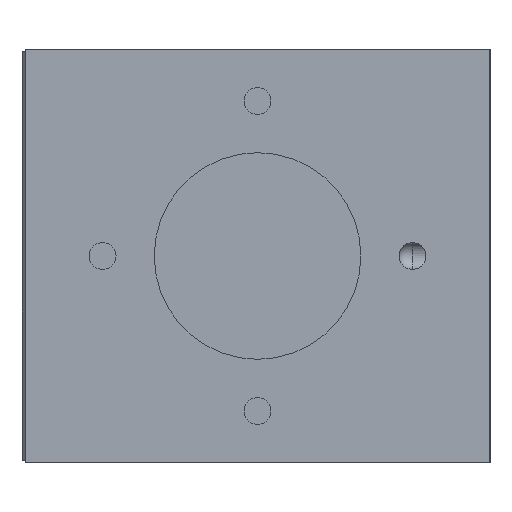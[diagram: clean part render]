
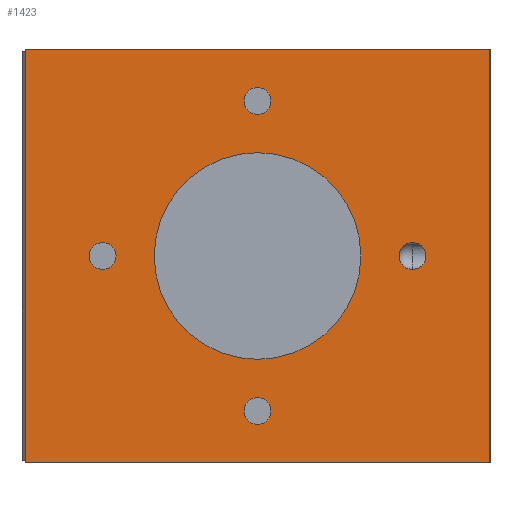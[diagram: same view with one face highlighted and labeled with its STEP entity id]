
A CAD part, left-side view. The second image highlights one B-rep face of the part: STEP entity #1423.
In plain terms, the highlighted planar face has unit normal (-1, 0, 0).
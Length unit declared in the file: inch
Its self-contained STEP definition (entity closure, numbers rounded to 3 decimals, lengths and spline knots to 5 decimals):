
#140 = FACE_BOUND ( 'NONE', #11827, .T. ) ;
#175 = EDGE_LOOP ( 'NONE', ( #10695, #2940 ) ) ;
#176 = EDGE_CURVE ( 'NONE', #7015, #8692, #12206, .T. ) ;
#306 = DIRECTION ( 'NONE',  ( -1., 0., 0. ) ) ;
#404 = EDGE_CURVE ( 'NONE', #7015, #8004, #2251, .T. ) ;
#467 = FACE_BOUND ( 'NONE', #583, .T. ) ;
#548 = AXIS2_PLACEMENT_3D ( 'NONE', #10420, #4392, #11439 ) ;
#583 = EDGE_LOOP ( 'NONE', ( #4765, #12351 ) ) ;
#620 = EDGE_CURVE ( 'NONE', #8004, #3454, #6835, .T. ) ;
#683 = CARTESIAN_POINT ( 'NONE',  ( -0.08115, 2.16875, 1.31967 ) ) ;
#699 = AXIS2_PLACEMENT_3D ( 'NONE', #11901, #5873, #12898 ) ;
#721 = EDGE_LOOP ( 'NONE', ( #5525, #6501 ) ) ;
#778 = DIRECTION ( 'NONE',  ( 0., 0., 1. ) ) ;
#788 = CARTESIAN_POINT ( 'NONE',  ( -0.08115, 2.16875, 0.13467 ) ) ;
#920 = DIRECTION ( 'NONE',  ( 0., 0., 1. ) ) ;
#1004 = CARTESIAN_POINT ( 'NONE',  ( -0.08115, 2.16875, 1.63467 ) ) ;
#1041 = CARTESIAN_POINT ( 'NONE',  ( -0.08115, 1.04375, 1.81967 ) ) ;
#1063 = CIRCLE ( 'NONE', #6927, 0.065 ) ;
#1064 = AXIS2_PLACEMENT_3D ( 'NONE', #4486, #11705, #12579 ) ;
#1423 = ADVANCED_FACE ( 'NONE', ( #2842, #467, #5865, #10912, #140, #10607 ), #12133, .F. ) ;
#1721 = AXIS2_PLACEMENT_3D ( 'NONE', #10713, #4671, #11718 ) ;
#1797 = AXIS2_PLACEMENT_3D ( 'NONE', #11505, #5482, #12508 ) ;
#1804 = CARTESIAN_POINT ( 'NONE',  ( -0.08115, 1.41875, 0.81967 ) ) ;
#1927 = DIRECTION ( 'NONE',  ( 1., 0., 0. ) ) ;
#1934 = DIRECTION ( 'NONE',  ( -1., 0., 0. ) ) ;
#2130 = CARTESIAN_POINT ( 'NONE',  ( -0.08115, 2.16875, 0.31967 ) ) ;
#2251 = LINE ( 'NONE', #9163, #10646 ) ;
#2612 = VERTEX_POINT ( 'NONE', #10884 ) ;
#2842 = FACE_BOUND ( 'NONE', #175, .T. ) ;
#2940 = ORIENTED_EDGE ( 'NONE', *, *, #6201, .F. ) ;
#3069 = EDGE_LOOP ( 'NONE', ( #9078, #7027, #12903, #9747 ) ) ;
#3143 = CIRCLE ( 'NONE', #699, 0.5 ) ;
#3161 = CARTESIAN_POINT ( 'NONE',  ( -0.08115, 2.91875, 0.75467 ) ) ;
#3367 = VERTEX_POINT ( 'NONE', #3161 ) ;
#3396 = DIRECTION ( 'NONE',  ( 0., -1., 0. ) ) ;
#3454 = VERTEX_POINT ( 'NONE', #9825 ) ;
#3883 = EDGE_CURVE ( 'NONE', #12038, #9624, #4099, .T. ) ;
#4082 = CARTESIAN_POINT ( 'NONE',  ( -0.08115, 1.04375, 1.81967 ) ) ;
#4099 = CIRCLE ( 'NONE', #1064, 0.5 ) ;
#4198 = EDGE_CURVE ( 'NONE', #7376, #5034, #1063, .T. ) ;
#4309 = LINE ( 'NONE', #1041, #12025 ) ;
#4392 = DIRECTION ( 'NONE',  ( -1., 0., 0. ) ) ;
#4404 = ORIENTED_EDGE ( 'NONE', *, *, #10784, .F. ) ;
#4486 = CARTESIAN_POINT ( 'NONE',  ( -0.08115, 2.16875, 0.81967 ) ) ;
#4671 = DIRECTION ( 'NONE',  ( -1., 0., 0. ) ) ;
#4726 = CIRCLE ( 'NONE', #1721, 0.065 ) ;
#4765 = ORIENTED_EDGE ( 'NONE', *, *, #9771, .F. ) ;
#4990 = EDGE_CURVE ( 'NONE', #7139, #10518, #13055, .T. ) ;
#5034 = VERTEX_POINT ( 'NONE', #9282 ) ;
#5046 = DIRECTION ( 'NONE',  ( 0., 0., -1. ) ) ;
#5054 = AXIS2_PLACEMENT_3D ( 'NONE', #13018, #7006, #920 ) ;
#5092 = DIRECTION ( 'NONE',  ( 0., -1., 0. ) ) ;
#5164 = ORIENTED_EDGE ( 'NONE', *, *, #9422, .F. ) ;
#5175 = DIRECTION ( 'NONE',  ( 0., 0., -1. ) ) ;
#5482 = DIRECTION ( 'NONE',  ( -1., 0., 0. ) ) ;
#5525 = ORIENTED_EDGE ( 'NONE', *, *, #7663, .F. ) ;
#5687 = VERTEX_POINT ( 'NONE', #8152 ) ;
#5865 = FACE_BOUND ( 'NONE', #721, .T. ) ;
#5873 = DIRECTION ( 'NONE',  ( -1., 0., 0. ) ) ;
#6016 = CIRCLE ( 'NONE', #1797, 0.065 ) ;
#6201 = EDGE_CURVE ( 'NONE', #3367, #2612, #13015, .T. ) ;
#6259 = VERTEX_POINT ( 'NONE', #1004 ) ;
#6367 = DIRECTION ( 'NONE',  ( 0., 0., -1. ) ) ;
#6393 = CARTESIAN_POINT ( 'NONE',  ( -0.08115, 1.41875, 0.81967 ) ) ;
#6501 = ORIENTED_EDGE ( 'NONE', *, *, #4990, .F. ) ;
#6577 = AXIS2_PLACEMENT_3D ( 'NONE', #6393, #306, #7384 ) ;
#6616 = AXIS2_PLACEMENT_3D ( 'NONE', #11119, #1927, #6367 ) ;
#6835 = LINE ( 'NONE', #7537, #11566 ) ;
#6851 = VECTOR ( 'NONE', #5092, 39.37008 ) ;
#6927 = AXIS2_PLACEMENT_3D ( 'NONE', #6988, #12001, #8041 ) ;
#6988 = CARTESIAN_POINT ( 'NONE',  ( -0.08115, 2.16875, 0.06967 ) ) ;
#7006 = DIRECTION ( 'NONE',  ( -1., 0., 0. ) ) ;
#7015 = VERTEX_POINT ( 'NONE', #8338 ) ;
#7027 = ORIENTED_EDGE ( 'NONE', *, *, #620, .T. ) ;
#7139 = VERTEX_POINT ( 'NONE', #7540 ) ;
#7376 = VERTEX_POINT ( 'NONE', #788 ) ;
#7384 = DIRECTION ( 'NONE',  ( 0., 0., 1. ) ) ;
#7485 = ORIENTED_EDGE ( 'NONE', *, *, #4198, .F. ) ;
#7517 = AXIS2_PLACEMENT_3D ( 'NONE', #1804, #7883, #778 ) ;
#7537 = CARTESIAN_POINT ( 'NONE',  ( -0.08115, 1.04375, -0.18033 ) ) ;
#7540 = CARTESIAN_POINT ( 'NONE',  ( -0.08115, 1.41875, 0.75467 ) ) ;
#7663 = EDGE_CURVE ( 'NONE', #10518, #7139, #11860, .T. ) ;
#7883 = DIRECTION ( 'NONE',  ( -1., 0., 0. ) ) ;
#7981 = EDGE_LOOP ( 'NONE', ( #7485, #4404 ) ) ;
#7994 = CARTESIAN_POINT ( 'NONE',  ( -0.08115, 2.91875, 0.81967 ) ) ;
#8004 = VERTEX_POINT ( 'NONE', #12153 ) ;
#8041 = DIRECTION ( 'NONE',  ( 0., 0., 1. ) ) ;
#8152 = CARTESIAN_POINT ( 'NONE',  ( -0.08115, 2.16875, 1.50467 ) ) ;
#8338 = CARTESIAN_POINT ( 'NONE',  ( -0.08115, 3.29375, 1.81967 ) ) ;
#8692 = VERTEX_POINT ( 'NONE', #10618 ) ;
#9031 = DIRECTION ( 'NONE',  ( 0., 0., 1. ) ) ;
#9078 = ORIENTED_EDGE ( 'NONE', *, *, #404, .T. ) ;
#9163 = CARTESIAN_POINT ( 'NONE',  ( -0.08115, 3.29375, 1.81967 ) ) ;
#9282 = CARTESIAN_POINT ( 'NONE',  ( -0.08115, 2.16875, 0.00467 ) ) ;
#9422 = EDGE_CURVE ( 'NONE', #9624, #12038, #3143, .T. ) ;
#9453 = AXIS2_PLACEMENT_3D ( 'NONE', #7994, #1934, #9031 ) ;
#9461 = CIRCLE ( 'NONE', #548, 0.065 ) ;
#9624 = VERTEX_POINT ( 'NONE', #2130 ) ;
#9747 = ORIENTED_EDGE ( 'NONE', *, *, #176, .F. ) ;
#9750 = CIRCLE ( 'NONE', #5054, 0.065 ) ;
#9771 = EDGE_CURVE ( 'NONE', #6259, #5687, #6016, .T. ) ;
#9825 = CARTESIAN_POINT ( 'NONE',  ( -0.08115, 1.04375, -0.18033 ) ) ;
#10341 = EDGE_CURVE ( 'NONE', #2612, #3367, #4726, .T. ) ;
#10420 = CARTESIAN_POINT ( 'NONE',  ( -0.08115, 2.16875, 0.06967 ) ) ;
#10518 = VERTEX_POINT ( 'NONE', #10962 ) ;
#10607 = FACE_OUTER_BOUND ( 'NONE', #3069, .T. ) ;
#10618 = CARTESIAN_POINT ( 'NONE',  ( -0.08115, 1.04375, 1.81967 ) ) ;
#10646 = VECTOR ( 'NONE', #5046, 39.37008 ) ;
#10695 = ORIENTED_EDGE ( 'NONE', *, *, #10341, .F. ) ;
#10713 = CARTESIAN_POINT ( 'NONE',  ( -0.08115, 2.91875, 0.81967 ) ) ;
#10784 = EDGE_CURVE ( 'NONE', #5034, #7376, #9461, .T. ) ;
#10884 = CARTESIAN_POINT ( 'NONE',  ( -0.08115, 2.91875, 0.88467 ) ) ;
#10912 = FACE_BOUND ( 'NONE', #7981, .T. ) ;
#10962 = CARTESIAN_POINT ( 'NONE',  ( -0.08115, 1.41875, 0.88467 ) ) ;
#11113 = EDGE_CURVE ( 'NONE', #5687, #6259, #9750, .T. ) ;
#11119 = CARTESIAN_POINT ( 'NONE',  ( -0.08115, 1.04375, 1.81967 ) ) ;
#11439 = DIRECTION ( 'NONE',  ( 0., 0., 1. ) ) ;
#11505 = CARTESIAN_POINT ( 'NONE',  ( -0.08115, 2.16875, 1.56967 ) ) ;
#11566 = VECTOR ( 'NONE', #3396, 39.37008 ) ;
#11705 = DIRECTION ( 'NONE',  ( -1., 0., 0. ) ) ;
#11718 = DIRECTION ( 'NONE',  ( 0., 0., 1. ) ) ;
#11827 = EDGE_LOOP ( 'NONE', ( #12026, #5164 ) ) ;
#11860 = CIRCLE ( 'NONE', #6577, 0.065 ) ;
#11901 = CARTESIAN_POINT ( 'NONE',  ( -0.08115, 2.16875, 0.81967 ) ) ;
#12001 = DIRECTION ( 'NONE',  ( -1., 0., 0. ) ) ;
#12025 = VECTOR ( 'NONE', #5175, 39.37008 ) ;
#12026 = ORIENTED_EDGE ( 'NONE', *, *, #3883, .F. ) ;
#12038 = VERTEX_POINT ( 'NONE', #683 ) ;
#12133 = PLANE ( 'NONE',  #6616 ) ;
#12153 = CARTESIAN_POINT ( 'NONE',  ( -0.08115, 3.29375, -0.18033 ) ) ;
#12206 = LINE ( 'NONE', #4082, #6851 ) ;
#12351 = ORIENTED_EDGE ( 'NONE', *, *, #11113, .F. ) ;
#12508 = DIRECTION ( 'NONE',  ( 0., 0., 1. ) ) ;
#12579 = DIRECTION ( 'NONE',  ( 0., 0., 1. ) ) ;
#12766 = EDGE_CURVE ( 'NONE', #8692, #3454, #4309, .T. ) ;
#12898 = DIRECTION ( 'NONE',  ( 0., 0., 1. ) ) ;
#12903 = ORIENTED_EDGE ( 'NONE', *, *, #12766, .F. ) ;
#13015 = CIRCLE ( 'NONE', #9453, 0.065 ) ;
#13018 = CARTESIAN_POINT ( 'NONE',  ( -0.08115, 2.16875, 1.56967 ) ) ;
#13055 = CIRCLE ( 'NONE', #7517, 0.065 ) ;
